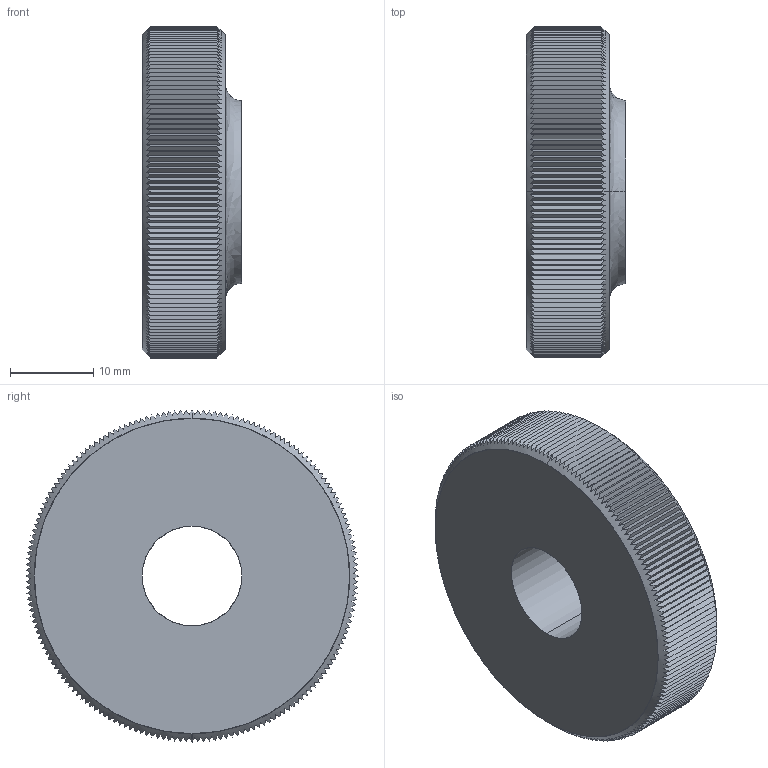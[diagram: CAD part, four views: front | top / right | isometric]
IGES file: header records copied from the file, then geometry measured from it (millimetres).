
Start section: SolidWorks IGES file using analytic representation for surfaces
Global section: file name: C:\Documents and Settings\IANO\Desktop\Temp File\Process pending\EXISTING\37120_v2\37120_v2_20170629_IGES\37120.W0012.igs; native system: SolidWorks 2009; preprocessor: SolidWorks 2009; author: IANO; date: 170627.122330; units: millimetre
Bounding box: 12 x 40 x 40 mm (x, y, z)
Surface area: 4683.6 mm2 (no closed solid volume)
Topology: 0 solids, 0 shells, 371 faces, 2444 edges, 2444 vertices
Faces by surface type: bspline 365, revolution 6
